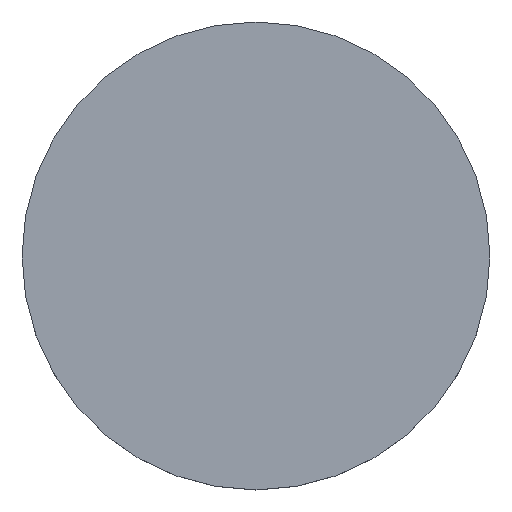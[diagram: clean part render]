
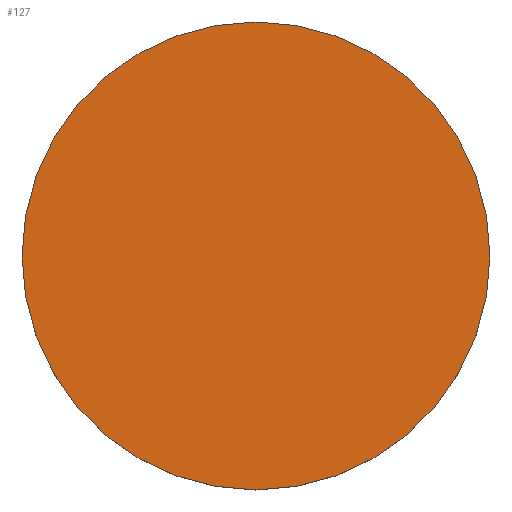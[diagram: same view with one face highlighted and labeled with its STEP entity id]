
A CAD part, top view. The second image highlights one B-rep face of the part: STEP entity #127.
In plain terms, the highlighted planar face has unit normal (0, 0, 1).
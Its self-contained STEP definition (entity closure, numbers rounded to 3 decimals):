
#42 = VERTEX_POINT('',#43);
#43 = CARTESIAN_POINT('',(100.,0.,18.));
#50 = CYLINDRICAL_SURFACE('',#51,100.);
#51 = AXIS2_PLACEMENT_3D('',#52,#53,#54);
#52 = CARTESIAN_POINT('',(0.,0.,0.));
#53 = DIRECTION('',(-0.,-0.,-1.));
#54 = DIRECTION('',(1.,0.,0.));
#69 = EDGE_CURVE('',#42,#42,#70,.T.);
#70 = SURFACE_CURVE('',#71,(#76,#83),.PCURVE_S1.);
#71 = CIRCLE('',#72,100.);
#72 = AXIS2_PLACEMENT_3D('',#73,#74,#75);
#73 = CARTESIAN_POINT('',(0.,0.,18.));
#74 = DIRECTION('',(0.,0.,1.));
#75 = DIRECTION('',(1.,0.,0.));
#76 = PCURVE('',#50,#77);
#77 = DEFINITIONAL_REPRESENTATION('',(#78),#82);
#78 = LINE('',#79,#80);
#79 = CARTESIAN_POINT('',(-0.,-18.));
#80 = VECTOR('',#81,1.);
#81 = DIRECTION('',(-1.,0.));
#82 = ( GEOMETRIC_REPRESENTATION_CONTEXT(2) 
PARAMETRIC_REPRESENTATION_CONTEXT() REPRESENTATION_CONTEXT('2D SPACE',''
  ) );
#83 = PCURVE('',#84,#89);
#84 = PLANE('',#85);
#85 = AXIS2_PLACEMENT_3D('',#86,#87,#88);
#86 = CARTESIAN_POINT('',(0.,0.,18.));
#87 = DIRECTION('',(0.,0.,1.));
#88 = DIRECTION('',(1.,0.,-0.));
#89 = DEFINITIONAL_REPRESENTATION('',(#90),#94);
#90 = CIRCLE('',#91,100.);
#91 = AXIS2_PLACEMENT_2D('',#92,#93);
#92 = CARTESIAN_POINT('',(0.,0.));
#93 = DIRECTION('',(1.,0.));
#94 = ( GEOMETRIC_REPRESENTATION_CONTEXT(2) 
PARAMETRIC_REPRESENTATION_CONTEXT() REPRESENTATION_CONTEXT('2D SPACE',''
  ) );
#127 = ADVANCED_FACE('',(#128),#84,.T.);
#128 = FACE_BOUND('',#129,.T.);
#129 = EDGE_LOOP('',(#130));
#130 = ORIENTED_EDGE('',*,*,#69,.T.);
